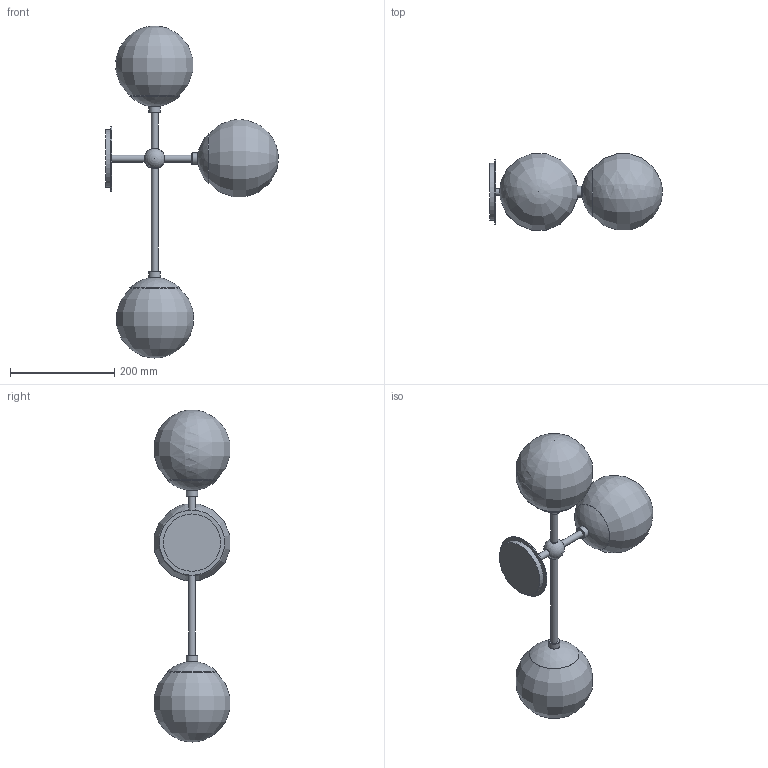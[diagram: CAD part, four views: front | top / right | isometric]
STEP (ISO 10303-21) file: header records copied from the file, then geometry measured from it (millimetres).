
FILE_DESCRIPTION(/* description */ (''),/* implementation_level */ '2;1');
FILE_NAME(/* name */ 'T:\B574 Globe Armstrong Wallsconce 3\Pliki bryłowe handlowe\B574 Armstrong Triple 3D files_na stronę\B574 Armstrong Triple.stp',/* time_stamp */ '2022-02-02T16:16:04+01:00',/* author */ ('Mariusz Awariusz'),/* organization */ (''),/* preprocessor_version */ 'ST-DEVELOPER v18.1',/* originating_system */ 'Autodesk Inventor 2022',/* authorisation */ '');
FILE_SCHEMA (('AUTOMOTIVE_DESIGN { 1 0 10303 214 3 1 1 }'));
Length unit declared in the file: millimetre
Products named in the file (1): B574 Globe Armstrong Wallsconce 3 CE_v1_na potrzeby plików 3D_2_j
ako część_korpusy bryłowe
Bounding box: 331.37 x 145.69 x 636.83 mm (x, y, z)
Volume: 652779.3 mm3; surface area: 533184.9 mm2
Topology: 17 solids, 17 shells, 119 faces, 204 edges, 131 vertices
Faces by surface type: plane 41, cylinder 38, cone 20, sphere 8, torus 6, bspline 6
Full cylindrical faces by diameter (mm): 11.6 x6, 11.917 x1, 13 x10, 13.5 x3, 16 x6, 20.6 x1, 22 x4, 23.1 x1, 23.5 x1, 50.221 x3, 110 x1, 125 x1
Entity records: 3113 total; most frequent: CARTESIAN_POINT 711, DIRECTION 562, ORIENTED_EDGE 392, AXIS2_PLACEMENT_3D 252, EDGE_CURVE 196, EDGE_LOOP 145, CIRCLE 138, VERTEX_POINT 131
